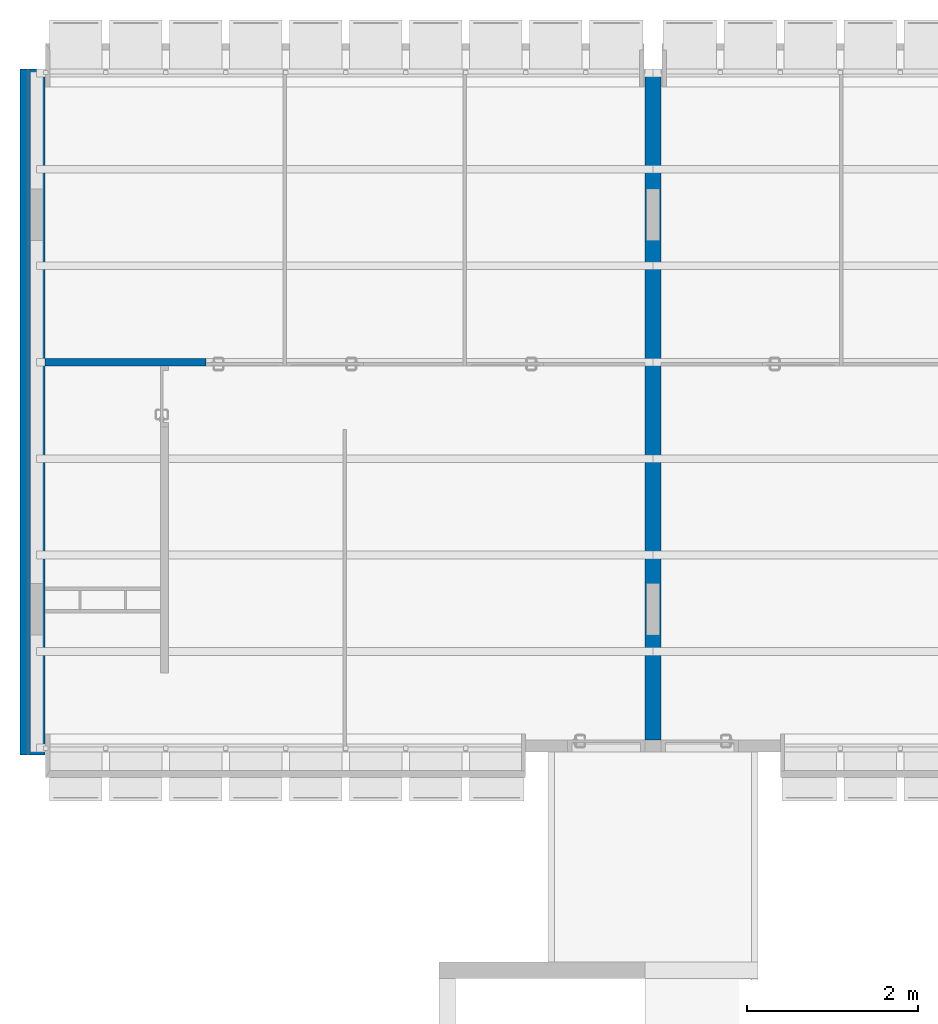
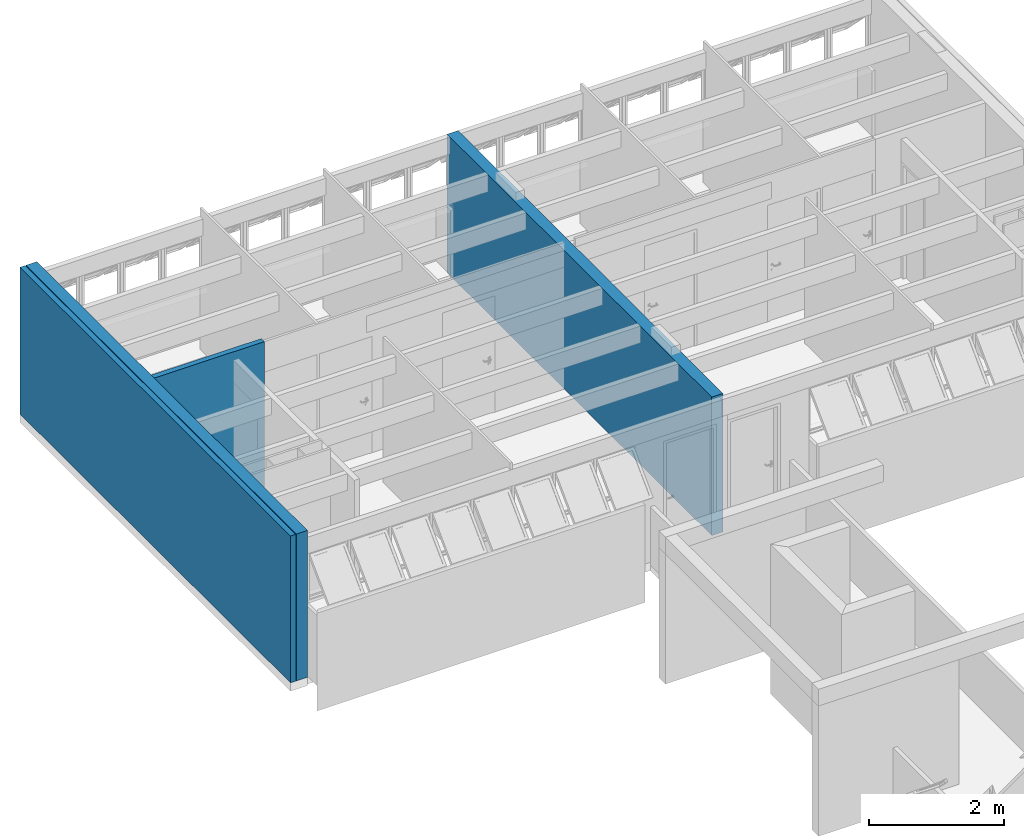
# One storey, part 33 of 40: 4 walls.
"""IFC4 building model written with IfcOpenShell, lengths in millimetres."""

from ifc_helpers import new_model, entity, si_unit, converted_unit, derived_unit, direction, frame, origin_with_axes, place, context, subcontext, project, spatial, line, indexed_curve, outline, extrude, material, layer, layer_set, layer_usage, type_object, element, save


model = new_model("IFC4")

# Units and contexts
model_context = context("Model", 3, precision=0.01, world=origin_with_axes(), true_north=direction((0.0, 1.0)))
body_context = subcontext(model_context, "Body", "Model", "MODEL_VIEW")
ifc_project = project(units=[si_unit("LENGTHUNIT", "METRE", prefix="MILLI"), si_unit("AREAUNIT", "SQUARE_METRE"), si_unit("VOLUMEUNIT", "CUBIC_METRE"), converted_unit("PLANEANGLEUNIT", "DEGREE", entity("IfcPlaneAngleMeasure", 0.0174532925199), si_unit("PLANEANGLEUNIT", "RADIAN"), dimensions=[0, 0, 0, 0, 0, 0, 0]), converted_unit("TIMEUNIT", "Year", entity("IfcTimeMeasure", 31556926.0), si_unit("TIMEUNIT", "SECOND"), dimensions=[0, 0, 1, 0, 0, 0, 0]), si_unit("MASSUNIT", "GRAM", prefix="KILO"), si_unit("THERMODYNAMICTEMPERATUREUNIT", "DEGREE_CELSIUS"), si_unit("LUMINOUSINTENSITYUNIT", "LUMEN"), si_unit("ENERGYUNIT", "JOULE", prefix="MEGA"), derived_unit("THERMALCONDUCTANCEUNIT", [(si_unit("POWERUNIT", "WATT"), 1), (si_unit("LENGTHUNIT", "METRE"), -1), (si_unit("THERMODYNAMICTEMPERATUREUNIT", "KELVIN"), -1)]), derived_unit("SPECIFICHEATCAPACITYUNIT", [(si_unit("ENERGYUNIT", "JOULE"), 1), (si_unit("MASSUNIT", "GRAM", prefix="KILO"), -1), (si_unit("THERMODYNAMICTEMPERATUREUNIT", "KELVIN"), -1)]), derived_unit("MASSDENSITYUNIT", [(si_unit("MASSUNIT", "GRAM", prefix="KILO"), 1), (si_unit("VOLUMEUNIT", "CUBIC_METRE"), -1)])], contexts=[model_context])

# Site, building, storey
site_placement = place(None, origin_with_axes())
site = spatial("IfcSite", under=ifc_project, at=site_placement, Name="Local", CompositionType="ELEMENT")
building_placement = place(site_placement, origin_with_axes())
building = spatial("IfcBuilding", under=site, at=building_placement, Name="Construção", CompositionType="ELEMENT")
storey_placement = place(building_placement, frame((0.0, 0.0, 5300.0), z_axis=(0.0, 0.0, 1.0), x_axis=(1.0, 0.0, 0.0)))
storey = spatial("IfcBuildingStorey", under=building, at=storey_placement, Name="Terceiro Pavimento", CompositionType="ELEMENT", Elevation=5300.0)

# Walls
ifc_material = material(Name="GENÉRICO - VEDAÇÃO EXTERNA")
ifc_layer_1 = layer(ifc_material, 190.0, ventilated="UNKNOWN", Name="GENÉRICO - VEDAÇÃO EXTERNA")
ifc_layer_set_1 = layer_set([ifc_layer_1], Name="GENÉRICO - VEDAÇÃO EXTERNA 190")
ifc_layer_usage_1 = layer_usage(ifc_layer_set_1, "AXIS2", "POSITIVE", 0.0)
wall_type_1 = type_object("IfcWallType", Name="GENÉRICO - VEDAÇÃO EXTERNA 190", PredefinedType="NOTDEFINED")
wall_1_placement = place(storey_placement, frame((7480.0, 18035.0, 0.0), z_axis=(0.0, 0.0, 1.0), x_axis=(0.0, 1.0, 0.0)))
element("IfcWall", 1, at=wall_1_placement, inside=storey, type_object=wall_type_1, material=ifc_layer_usage_1, Name="CIRC3-PAREDE-029", PredefinedType="NOTDEFINED", context=body_context, shape_type="SweptSolid", body=[
    extrude(outline(indexed_curve([(0.0, 0.0), (7825.0, 0.0), (7825.0, 190.0), (0.0, 190.0)], segments=[line(1, 2, 3, 4, 1)])), origin_with_axes(), (0.0, 0.0, 1.0), 2500.0),
])
ifc_layer_usage_2 = layer_usage(ifc_layer_set_1, "AXIS2", "POSITIVE", 0.0)
wall_2_placement = place(storey_placement, frame((290.0, 17860.0, 0.0), z_axis=(0.0, 0.0, 1.0), x_axis=(0.0, 1.0, 0.0)))
element("IfcWall", 2, at=wall_2_placement, inside=storey, type_object=wall_type_1, material=ifc_layer_usage_2, Name="APTO11-PAREDE-013", PredefinedType="NOTDEFINED", context=body_context, shape_type="SweptSolid", body=[
    extrude(outline(indexed_curve([(0.0, 0.0), (8000.0, 0.0), (8000.0, 190.0), (0.0, 190.0)], segments=[line(1, 2, 3, 4, 1)])), origin_with_axes(), (0.0, 0.0, 1.0), 2650.0),
])
ifc_layer_2 = layer(ifc_material, 90.0, ventilated="UNKNOWN", Name="GENÉRICO - VEDAÇÃO EXTERNA")
ifc_layer_set_2 = layer_set([ifc_layer_2], Name="GENÉRICO - VEDAÇÃO EXTERNA 90")
ifc_layer_usage_3 = layer_usage(ifc_layer_set_2, "AXIS2", "POSITIVE", 0.0)
wall_type_2 = type_object("IfcWallType", Name="GENÉRICO - VEDAÇÃO EXTERNA 90", PredefinedType="NOTDEFINED")
wall_3_placement = place(storey_placement, frame((290.0, 22394.7804333, 0.0), z_axis=(0.0, 0.0, 1.0), x_axis=(1.0, 0.0, 0.0)))
element("IfcWall", 3, at=wall_3_placement, inside=storey, type_object=wall_type_2, material=ifc_layer_usage_3, Name="APTO11-PAREDE-019", PredefinedType="NOTDEFINED", context=body_context, shape_type="SweptSolid", body=[
    extrude(outline(indexed_curve([(0.0, 0.0), (1880.0, 0.0), (1879.99807021, 90.0), (0.0, 90.0)], segments=[line(1, 2, 3, 4, 1)])), origin_with_axes(), (0.0, 0.0, 1.0), 2650.0),
])
ifc_layer_usage_4 = layer_usage(ifc_layer_set_2, "AXIS2", "POSITIVE", 0.0)
wall_4_placement = place(storey_placement, frame((90.0, 17860.0, 0.0), z_axis=(0.0, 0.0, 1.0), x_axis=(0.0, 1.0, 0.0)))
element("IfcWall", 4, at=wall_4_placement, inside=storey, type_object=wall_type_2, material=ifc_layer_usage_4, Name="APTO11-PAREDE-014", PredefinedType="NOTDEFINED", context=body_context, shape_type="SweptSolid", body=[
    extrude(outline(indexed_curve([(0.0, 0.0), (8000.0, 0.0), (8000.0, 90.0), (0.0, 90.0)], segments=[line(1, 2, 3, 4, 1)])), origin_with_axes(), (0.0, 0.0, 1.0), 2650.0),
])

save(model, "model.ifc")
